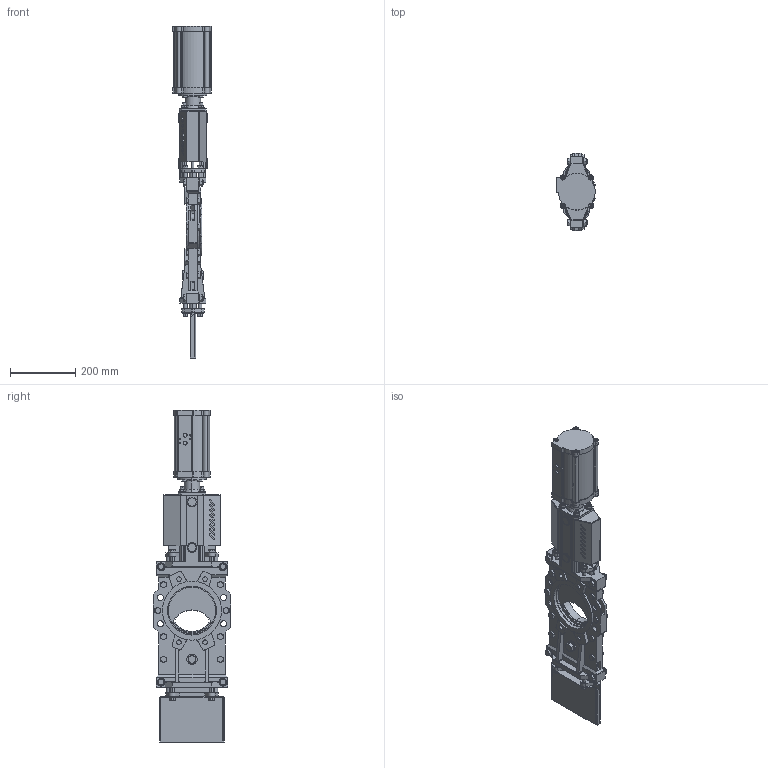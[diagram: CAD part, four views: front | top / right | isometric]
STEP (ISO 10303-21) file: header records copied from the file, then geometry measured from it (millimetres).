
FILE_DESCRIPTION(('STEP AP203'),'1');
FILE_NAME('F:/Alexander/CYLSAM/2D-3D/HG/125/HG-DN125-EC100-140.stp','2012-11-30T08:37:51',(' '),(' '),'Spatial InterOp 3D',' ',' ');
FILE_SCHEMA(('CONFIG_CONTROL_DESIGN'));
Length unit declared in the file: millimetre
Products named in the file (5): 1; 2; 3; 4; 5
Bounding box: 118 x 239.01 x 1021 mm (x, y, z)
Volume: 4483062.5 mm3; surface area: 1213790.1 mm2
Topology: 5 solids, 37 shells, 2525 faces, 6365 edges, 4058 vertices
Faces by surface type: plane 976, cylinder 966, cone 494, torus 89
Entity records: 77544 total; most frequent: CARTESIAN_POINT 16563, DIRECTION 13290, ORIENTED_EDGE 12674, EDGE_CURVE 6337, AXIS2_PLACEMENT_3D 5251, VERTEX_POINT 4058, EDGE_LOOP 2843, LINE 2788
